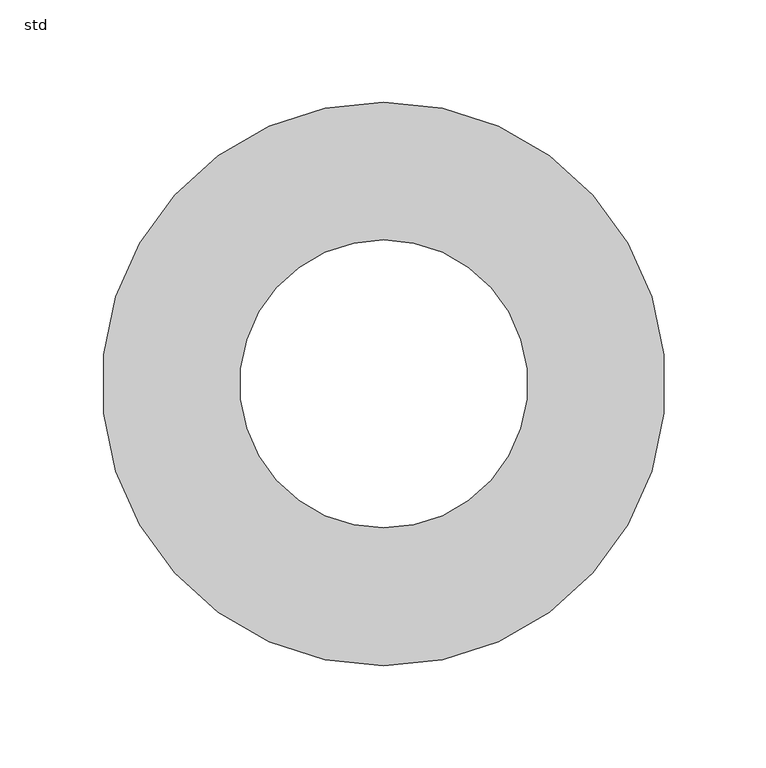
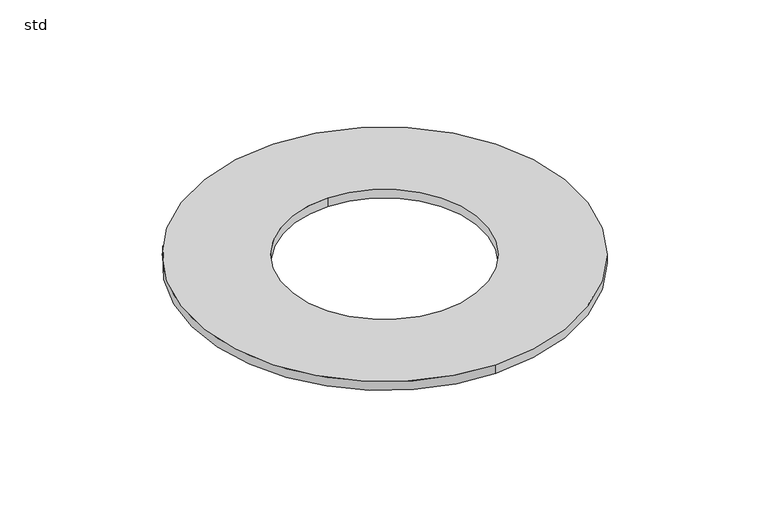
"""IFC4 building model written with IfcOpenShell, lengths in millimetres: sanitary terminal geometry, PF_GEN_UN_single body with grating DN50 Passavant Jet_ACO : std."""

from ifc_helpers import new_model, si_unit, point, frame, origin, origin_2d, place, context, project, spatial, circle_curve, trimmed, segment, composite_curve, outline, extrude, source, transform, mapped, element, save


def std_82fbe6ac(model_context):
    return source(origin(), model_context, "Body", "SweptSolid", [
        extrude(outline(composite_curve([segment(trimmed(circle_curve(origin_2d(), 138.0), [point((0.0, -138.0))], [point((0.0, 138.0))], False, "CARTESIAN"), True, "CONTINUOUS"), segment(trimmed(circle_curve(origin_2d(), 138.0), [point((0.0, 138.0))], [point((0.0, -138.0))], False, "CARTESIAN"), True, "CONTINUOUS")], self_intersect=False), holes=[composite_curve([segment(trimmed(circle_curve(origin_2d(), 70.5), [point((0.0, -70.5))], [point((0.0, 70.5))], True, "CARTESIAN"), True, "CONTINUOUS"), segment(trimmed(circle_curve(origin_2d(), 70.5), [point((0.0, 70.5))], [point((0.0, -70.5))], True, "CARTESIAN"), True, "CONTINUOUS")], self_intersect=False)]), frame((0.0, 0.0, 9.0), z_axis=(0.0, 0.0, 1.0), x_axis=(1.0, 0.0, 0.0)), (0.0, 0.0, 1.0), 6.5),
    ])


if __name__ == "__main__":
    model = new_model("IFC4")
    model_context = context("Model", 3, world=origin())
    ifc_project = project(units=[si_unit("LENGTHUNIT", "METRE", prefix="MILLI")], contexts=[model_context])
    site = spatial("IfcSite", under=ifc_project)
    building = spatial("IfcBuilding", under=site)
    placement = place(None, origin())
    std_shape = std_82fbe6ac(model_context)
    element("IfcSanitaryTerminal", 1, ObjectType="PF_GEN_UN_single body with grating DN50 Passavant Jet_ACO : std", at=placement, inside=building, context=model_context, shape_type="MappedRepresentation", body=[
        mapped(std_shape, transform((0.0, 0.0, 0.0), x_axis=(1.0, 0.0, 0.0), y_axis=(0.0, 1.0, 0.0), z_axis=(0.0, 0.0, 1.0))),
    ])
    save(model, "model.ifc")
